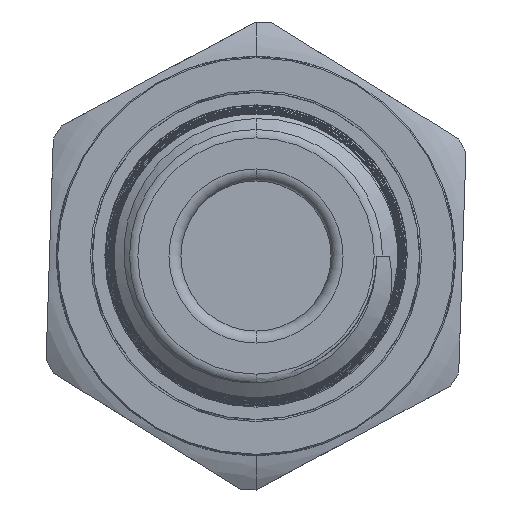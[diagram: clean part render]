
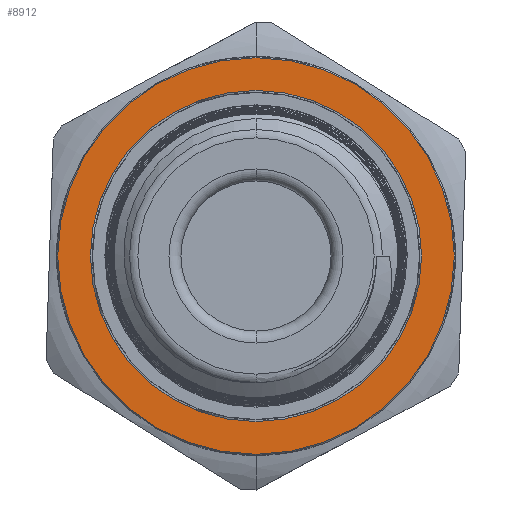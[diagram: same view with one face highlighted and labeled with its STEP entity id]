
A CAD part, front view. The second image highlights one B-rep face of the part: STEP entity #8912.
In plain terms, the highlighted planar face has unit normal (0, -1, 0).
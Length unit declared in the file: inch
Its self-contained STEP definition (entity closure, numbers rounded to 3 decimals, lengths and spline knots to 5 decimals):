
#66 = CIRCLE ( 'NONE', #8562, 0.276 ) ;
#699 = CARTESIAN_POINT ( 'NONE',  ( 0.3305, 0.097, 0. ) ) ;
#1276 = DIRECTION ( 'NONE',  ( 0., 1., 0. ) ) ;
#1576 = EDGE_CURVE ( 'NONE', #2073, #10430, #6559, .T. ) ;
#1867 = CARTESIAN_POINT ( 'NONE',  ( 0., 0.097, 0. ) ) ;
#1982 = EDGE_LOOP ( 'NONE', ( #10674, #4097 ) ) ;
#2073 = VERTEX_POINT ( 'NONE', #3501 ) ;
#2097 = CIRCLE ( 'NONE', #12403, 0.276 ) ;
#2114 = FACE_BOUND ( 'NONE', #1982, .T. ) ;
#2895 = DIRECTION ( 'NONE',  ( 0., 0., 1. ) ) ;
#3262 = DIRECTION ( 'NONE',  ( 0., 1., 0. ) ) ;
#3501 = CARTESIAN_POINT ( 'NONE',  ( 0., 0.097, 0.3305 ) ) ;
#3571 = ORIENTED_EDGE ( 'NONE', *, *, #1576, .F. ) ;
#4097 = ORIENTED_EDGE ( 'NONE', *, *, #8937, .T. ) ;
#4160 = CIRCLE ( 'NONE', #4396, 0.3305 ) ;
#4396 = AXIS2_PLACEMENT_3D ( 'NONE', #9332, #3262, #10340 ) ;
#4837 = DIRECTION ( 'NONE',  ( 0., 1., 0. ) ) ;
#5450 = FACE_OUTER_BOUND ( 'NONE', #13036, .T. ) ;
#6082 = CARTESIAN_POINT ( 'NONE',  ( 0., 0.097, 0.276 ) ) ;
#6559 = CIRCLE ( 'NONE', #6940, 0.3305 ) ;
#6912 = DIRECTION ( 'NONE',  ( 0., 1., 0. ) ) ;
#6940 = AXIS2_PLACEMENT_3D ( 'NONE', #7209, #6912, #10237 ) ;
#7188 = VERTEX_POINT ( 'NONE', #12624 ) ;
#7209 = CARTESIAN_POINT ( 'NONE',  ( 0., 0.097, 0. ) ) ;
#7339 = CARTESIAN_POINT ( 'NONE',  ( 0., 0.097, 0. ) ) ;
#7766 = ORIENTED_EDGE ( 'NONE', *, *, #11230, .F. ) ;
#8368 = DIRECTION ( 'NONE',  ( 0., 0., 1. ) ) ;
#8562 = AXIS2_PLACEMENT_3D ( 'NONE', #1867, #8958, #2895 ) ;
#8912 = ADVANCED_FACE ( 'NONE', ( #5450, #2114 ), #10916, .F. ) ;
#8937 = EDGE_CURVE ( 'NONE', #7188, #9866, #66, .T. ) ;
#8958 = DIRECTION ( 'NONE',  ( 0., 1., 0. ) ) ;
#9231 = AXIS2_PLACEMENT_3D ( 'NONE', #699, #4837, #11946 ) ;
#9332 = CARTESIAN_POINT ( 'NONE',  ( 0., 0.097, 0. ) ) ;
#9611 = CARTESIAN_POINT ( 'NONE',  ( 0., 0.097, -0.3305 ) ) ;
#9866 = VERTEX_POINT ( 'NONE', #6082 ) ;
#10237 = DIRECTION ( 'NONE',  ( 0., 0., 1. ) ) ;
#10340 = DIRECTION ( 'NONE',  ( 0., 0., 1. ) ) ;
#10430 = VERTEX_POINT ( 'NONE', #9611 ) ;
#10674 = ORIENTED_EDGE ( 'NONE', *, *, #13137, .T. ) ;
#10916 = PLANE ( 'NONE',  #9231 ) ;
#11230 = EDGE_CURVE ( 'NONE', #10430, #2073, #4160, .T. ) ;
#11946 = DIRECTION ( 'NONE',  ( 0., 0., 1. ) ) ;
#12403 = AXIS2_PLACEMENT_3D ( 'NONE', #7339, #1276, #8368 ) ;
#12624 = CARTESIAN_POINT ( 'NONE',  ( 0., 0.097, -0.276 ) ) ;
#13036 = EDGE_LOOP ( 'NONE', ( #3571, #7766 ) ) ;
#13137 = EDGE_CURVE ( 'NONE', #9866, #7188, #2097, .T. ) ;
